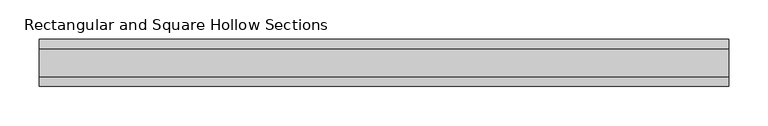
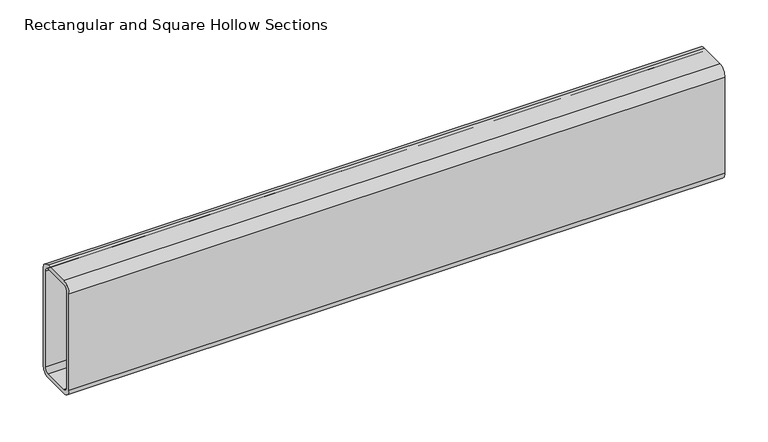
"""IFC4 building model written with IfcOpenShell, lengths in millimetres: beam geometry, Rectangular and Square Hollow Sections : TREC160x60x6."""

from ifc_helpers import new_model, si_unit, point, frame, frame_2d, origin, place, context, project, spatial, polyline, circle_curve, trimmed, segment, composite_curve, outline, extrude, source, transform, mapped, element, save


def rectangular_and_square_hollow_sections_28b53b98(model_context):
    return source(origin(), model_context, "Body", "SweptSolid", [
        extrude(outline(composite_curve([segment(polyline([(30.0, 68.0), (30.0, -68.0)]), True, "CONTINUOUS"), segment(trimmed(circle_curve(frame_2d((18.0, -68.0)), 12.0), [point((30.0, -68.0))], [point((18.0, -80.0))], False, "CARTESIAN"), True, "CONTINUOUS"), segment(polyline([(18.0, -80.0), (-18.0, -80.0)]), True, "CONTINUOUS"), segment(trimmed(circle_curve(frame_2d((-18.0, -68.0)), 12.0), [point((-18.0, -80.0))], [point((-30.0, -68.0))], False, "CARTESIAN"), True, "CONTINUOUS"), segment(polyline([(-30.0, -68.0), (-30.0, 68.0)]), True, "CONTINUOUS"), segment(trimmed(circle_curve(frame_2d((-18.0, 68.0)), 12.0), [point((-30.0, 68.0))], [point((-18.0, 80.0))], False, "CARTESIAN"), True, "CONTINUOUS"), segment(polyline([(-18.0, 80.0), (18.0, 80.0)]), True, "CONTINUOUS"), segment(trimmed(circle_curve(frame_2d((18.0, 68.0)), 12.0), [point((18.0, 80.0))], [point((30.0, 68.0))], False, "CARTESIAN"), True, "CONTINUOUS")], self_intersect=False), holes=[composite_curve([segment(trimmed(circle_curve(frame_2d((-18.0, 68.0)), 6.0), [point((-18.0, 74.0))], [point((-24.0, 68.0))], True, "CARTESIAN"), True, "CONTINUOUS"), segment(polyline([(-24.0, 68.0), (-24.0, -68.0)]), True, "CONTINUOUS"), segment(trimmed(circle_curve(frame_2d((-18.0, -68.0)), 6.0), [point((-24.0, -68.0))], [point((-18.0, -74.0))], True, "CARTESIAN"), True, "CONTINUOUS"), segment(polyline([(-18.0, -74.0), (18.0, -74.0)]), True, "CONTINUOUS"), segment(trimmed(circle_curve(frame_2d((18.0, -68.0)), 6.0), [point((18.0, -74.0))], [point((24.0, -68.0))], True, "CARTESIAN"), True, "CONTINUOUS"), segment(polyline([(24.0, -68.0), (24.0, 68.0)]), True, "CONTINUOUS"), segment(trimmed(circle_curve(frame_2d((18.0, 68.0)), 6.0), [point((24.0, 68.0))], [point((18.0, 74.0))], True, "CARTESIAN"), True, "CONTINUOUS"), segment(polyline([(18.0, 74.0), (-18.0, 74.0)]), True, "CONTINUOUS")], self_intersect=False)]), frame((-417.3, 0.0, 0.0), z_axis=(1.0, 0.0, 0.0), x_axis=(0.0, 1.0, 0.0)), (0.0, 0.0, 1.0), 878.3),
    ])


if __name__ == "__main__":
    model = new_model("IFC4")
    model_context = context("Model", 3, world=origin())
    ifc_project = project(units=[si_unit("LENGTHUNIT", "METRE", prefix="MILLI")], contexts=[model_context])
    site = spatial("IfcSite", under=ifc_project)
    building = spatial("IfcBuilding", under=site)
    placement = place(None, origin())
    rectangular_and_square_hollow_sections_shape = rectangular_and_square_hollow_sections_28b53b98(model_context)
    element("IfcBeam", 1, ObjectType="Rectangular and Square Hollow Sections : TREC160x60x6", at=placement, inside=building, context=model_context, shape_type="MappedRepresentation", body=[
        mapped(rectangular_and_square_hollow_sections_shape, transform((0.0, 0.0, 0.0), x_axis=(1.0, 0.0, 0.0), y_axis=(0.0, 1.0, 0.0), z_axis=(0.0, 0.0, 1.0))),
    ])
    save(model, "model.ifc")
